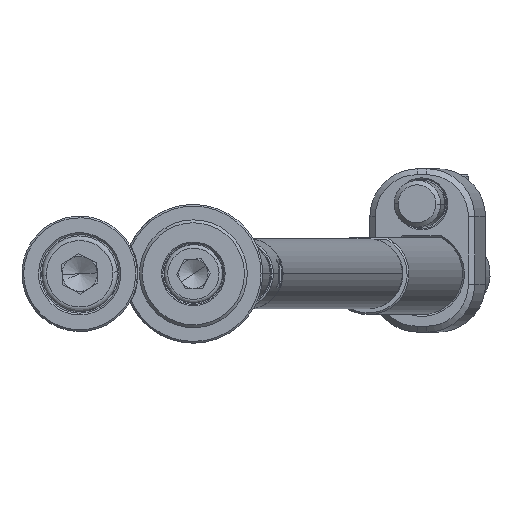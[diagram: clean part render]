
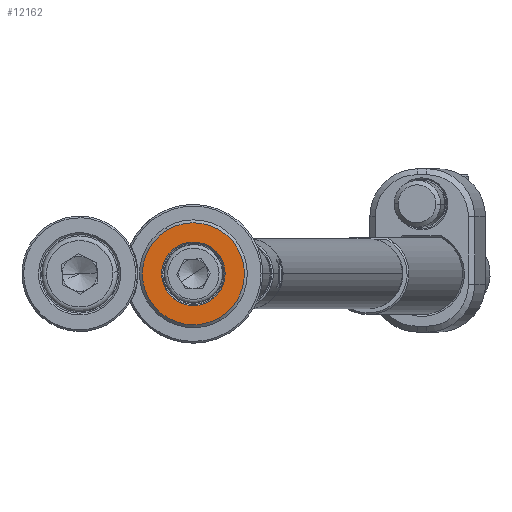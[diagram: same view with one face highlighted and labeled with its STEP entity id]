
A CAD part, front view. The second image highlights one B-rep face of the part: STEP entity #12162.
In plain terms, the highlighted planar face has unit normal (0, -1, 0).
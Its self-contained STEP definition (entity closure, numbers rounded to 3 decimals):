
#43 = VERTEX_POINT ( 'NONE', #11449 ) ;
#84 = CARTESIAN_POINT ( 'NONE',  ( 2.753, -4., -4.704 ) ) ;
#654 = PLANE ( 'NONE',  #2049 ) ;
#791 = DIRECTION ( 'NONE',  ( -0.505, 0., 0.863 ) ) ;
#1218 = CIRCLE ( 'NONE', #3783, 8.75 ) ;
#1392 = EDGE_CURVE ( 'NONE', #43, #4740, #1218, .T. ) ;
#1821 = CARTESIAN_POINT ( 'NONE',  ( -4.531, -4., -2.652 ) ) ;
#2049 = AXIS2_PLACEMENT_3D ( 'NONE', #1821, #10725, #791 ) ;
#2913 = VERTEX_POINT ( 'NONE', #12824 ) ;
#3107 = CARTESIAN_POINT ( 'NONE',  ( -4.42, -4., 7.552 ) ) ;
#3144 = CARTESIAN_POINT ( 'NONE',  ( 0., -4., 0. ) ) ;
#3669 = CIRCLE ( 'NONE', #6898, 5.45 ) ;
#3783 = AXIS2_PLACEMENT_3D ( 'NONE', #13445, #14322, #12358 ) ;
#3850 = ORIENTED_EDGE ( 'NONE', *, *, #5466, .T. ) ;
#4514 = AXIS2_PLACEMENT_3D ( 'NONE', #13098, #13268, #7471 ) ;
#4630 = DIRECTION ( 'NONE',  ( 0., 1., 0. ) ) ;
#4740 = VERTEX_POINT ( 'NONE', #3107 ) ;
#5454 = ORIENTED_EDGE ( 'NONE', *, *, #6193, .T. ) ;
#5466 = EDGE_CURVE ( 'NONE', #2913, #5884, #10130, .T. ) ;
#5703 = CARTESIAN_POINT ( 'NONE',  ( 0., -4., 0. ) ) ;
#5884 = VERTEX_POINT ( 'NONE', #84 ) ;
#6193 = EDGE_CURVE ( 'NONE', #4740, #43, #10745, .T. ) ;
#6390 = FACE_BOUND ( 'NONE', #9930, .T. ) ;
#6496 = DIRECTION ( 'NONE',  ( 0., 1., 0. ) ) ;
#6898 = AXIS2_PLACEMENT_3D ( 'NONE', #3144, #6496, #11778 ) ;
#7471 = DIRECTION ( 'NONE',  ( -0.505, 0., 0.863 ) ) ;
#7944 = DIRECTION ( 'NONE',  ( -0.505, 0., 0.863 ) ) ;
#8609 = FACE_OUTER_BOUND ( 'NONE', #10176, .T. ) ;
#9930 = EDGE_LOOP ( 'NONE', ( #12669, #3850 ) ) ;
#10130 = CIRCLE ( 'NONE', #11524, 5.45 ) ;
#10176 = EDGE_LOOP ( 'NONE', ( #5454, #13007 ) ) ;
#10725 = DIRECTION ( 'NONE',  ( 0., 1., 0. ) ) ;
#10738 = EDGE_CURVE ( 'NONE', #5884, #2913, #3669, .T. ) ;
#10745 = CIRCLE ( 'NONE', #4514, 8.75 ) ;
#11449 = CARTESIAN_POINT ( 'NONE',  ( 4.42, -4., -7.552 ) ) ;
#11524 = AXIS2_PLACEMENT_3D ( 'NONE', #5703, #4630, #7944 ) ;
#11778 = DIRECTION ( 'NONE',  ( -0.505, 0., 0.863 ) ) ;
#12162 = ADVANCED_FACE ( 'NONE', ( #6390, #8609 ), #654, .F. ) ;
#12358 = DIRECTION ( 'NONE',  ( -0.505, 0., 0.863 ) ) ;
#12669 = ORIENTED_EDGE ( 'NONE', *, *, #10738, .T. ) ;
#12824 = CARTESIAN_POINT ( 'NONE',  ( -2.753, -4., 4.704 ) ) ;
#13007 = ORIENTED_EDGE ( 'NONE', *, *, #1392, .T. ) ;
#13098 = CARTESIAN_POINT ( 'NONE',  ( 0., -4., 0. ) ) ;
#13268 = DIRECTION ( 'NONE',  ( 0., -1., 0. ) ) ;
#13445 = CARTESIAN_POINT ( 'NONE',  ( 0., -4., 0. ) ) ;
#14322 = DIRECTION ( 'NONE',  ( 0., -1., 0. ) ) ;
